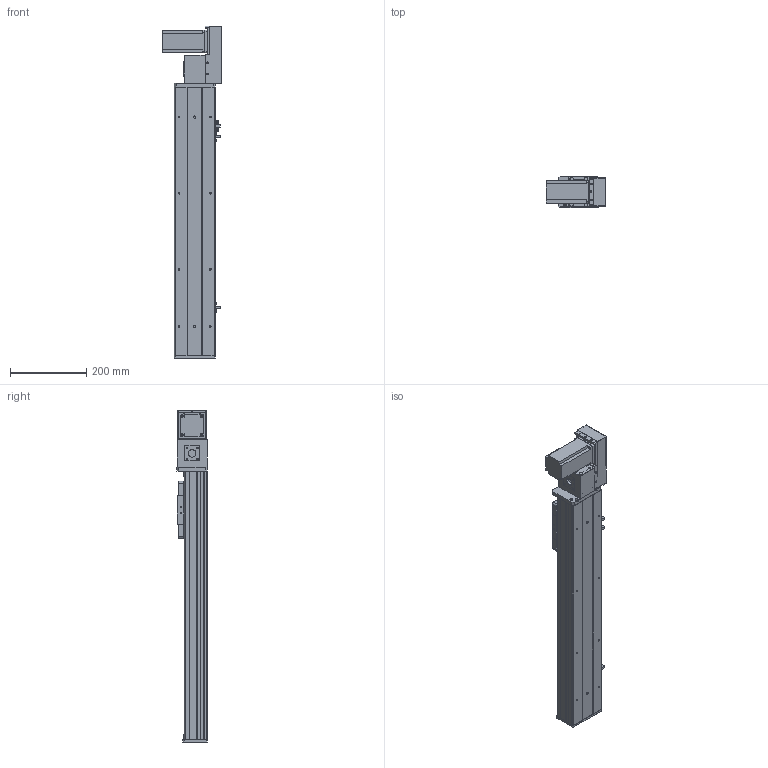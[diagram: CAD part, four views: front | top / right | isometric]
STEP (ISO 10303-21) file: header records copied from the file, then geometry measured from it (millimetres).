
FILE_DESCRIPTION (( 'STEP AP203' ), '1' );
FILE_NAME ('Y10CB-D90-S450-BR-P400W.STEP', '2020-02-16T01:37:07', ( '微软用户' ), ( '微软中国' ), 'SwSTEP 2.0', 'SolidWorks 2017', '' );
FILE_SCHEMA (( 'CONFIG_CONTROL_DESIGN' ));
Length unit declared in the file: millimetre
Products named in the file (18): 10CB-耜裔; san松下电机400不带刹车----; Y135C-陔俋离換覜結え-; 0B-源倛裔啣; Y100-135俋离換覜ん--; 0B-埴倛裔啣; Y10B--々湍喘謫眊--666; Y俋欶BR----; 0CB-雄赽釱---; Y10CB-D90-S450-BR-P400W; 10CB-詩湍-; 0Cb-俋欶---; Y10CB- 掛极耜裔啣-毀---; Y10B-々湍喘謫眊楊擘啣--; Y10C---詩湍揤啣; Y10B-耜蚾蟀諉啣----; 10CB9-掛极; 0B-萇儂楊擘啣
Assembly tree (21 placements, depth 2):
  Y10CB-D90-S450-BR-P400W
    0CB-雄赽釱---
    0Cb-俋欶---
    Y10B-々湍喘謫眊楊擘啣--
    Y10B-耜蚾蟀諉啣----
    0B-萇儂楊擘啣
    san松下电机400不带刹车----
    0B-源倛裔啣
    0B-埴倛裔啣
    Y俋欶BR----
    10CB-詩湍-
    Y10CB- 掛极耜裔啣-毀---  x2
    Y10C---詩湍揤啣  x2
    10CB9-掛极
    10CB-耜裔
    Y135C-陔俋离換覜結え-
    Y100-135俋离換覜ん--  x3
    Y10B--々湍喘謫眊--666
Bounding box: 157.5 x 80.5 x 872.5 mm (x, y, z)
Volume: 2177081.9 mm3; surface area: 928404.9 mm2
Topology: 21 solids, 21 shells, 954 faces, 2523 edges, 1658 vertices
Faces by surface type: plane 473, cylinder 457, cone 24
Entity records: 29404 total; most frequent: CARTESIAN_POINT 5025, DIRECTION 4790, ORIENTED_EDGE 4516, EDGE_CURVE 2258, AXIS2_PLACEMENT_3D 1713, VERTEX_POINT 1484, VECTOR 1364, LINE 1364
